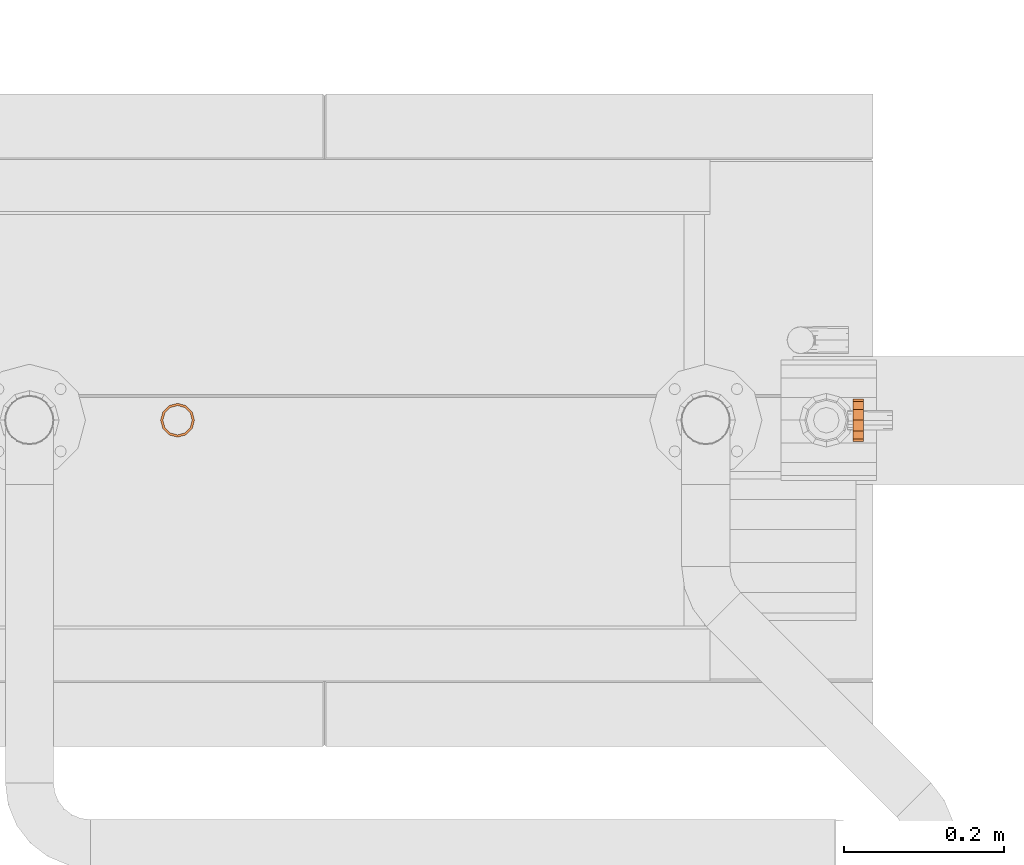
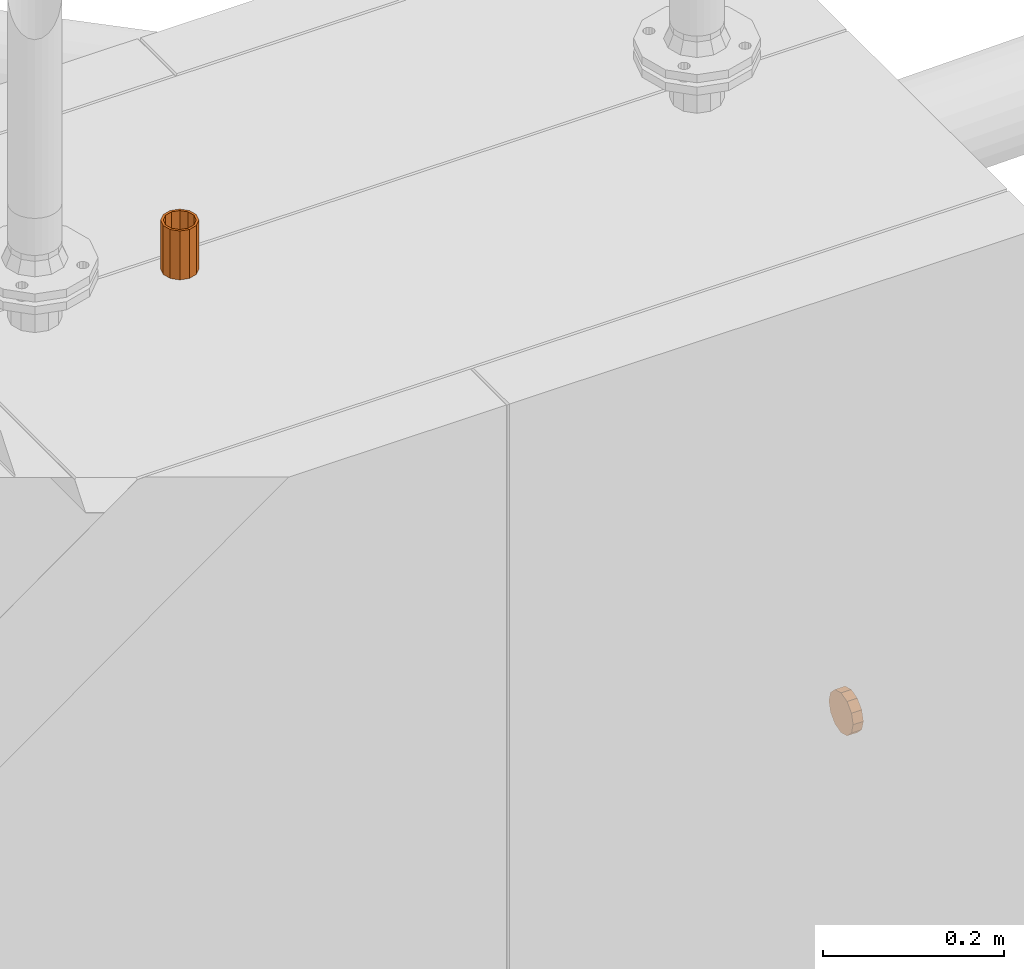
# One storey, part 374 of 374: 2 proxies.
"""IFC2X3 building model written with IfcOpenShell, lengths in metres."""

from ifc_helpers import new_model, si_unit, direction, origin, place, context, subcontext, project, spatial, open_shell, surface_model, source, transform, mapped, element, save


model = new_model("IFC2X3")

# Units and contexts
model_context = context("Model", 3, precision=1e-05, world=origin(), true_north=direction((-0.4480736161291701, 0.8939966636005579)))
body_context = subcontext(model_context, "Body", "Model", "MODEL_VIEW")
ifc_project = project(units=[si_unit("LENGTHUNIT", "METRE"), si_unit("AREAUNIT", "SQUARE_METRE"), si_unit("VOLUMEUNIT", "CUBIC_METRE"), si_unit("PLANEANGLEUNIT", "RADIAN"), si_unit("THERMODYNAMICTEMPERATUREUNIT", "KELVIN"), si_unit("MASSUNIT", "GRAM", prefix="KILO"), si_unit("TIMEUNIT", "SECOND")], contexts=[model_context])

# Site, building, storey
site_placement = place(None, origin())
site = spatial("IfcSite", under=ifc_project, at=site_placement, Name="Site 1", CompositionType="ELEMENT")
building_placement = place(site_placement, origin())
building = spatial("IfcBuilding", under=site, at=building_placement, Name="Undefined", CompositionType="ELEMENT")
storey_placement = place(building_placement, origin())
storey = spatial("IfcBuildingStorey", under=building, at=storey_placement, Name="Rez de chauss\x8ee", CompositionType="ELEMENT", Elevation=0.0)

# Proxies
shared_shape_1 = source(origin(), body_context, "Body", "SurfaceModel", [
    surface_model("IfcFaceBasedSurfaceModel", [(0.025895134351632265, 0.006938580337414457, 0.0), (0.0, 0.0, 0.0), (0.03791310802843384, -4.4408921e-16, 0.0), (-0.006938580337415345, -0.01201797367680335, 0.0), (0.04485168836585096, -0.012017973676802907, 0.0), (-0.006938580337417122, -0.025895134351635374, 0.0), (0.04485168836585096, -0.02589513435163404, 0.0), (1.776356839e-15, -0.03791310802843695, 0.0), (0.037913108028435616, -0.03791310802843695, 0.0), (0.01201797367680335, -0.044851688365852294, 0.0), (0.02589513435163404, -0.04485168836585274, 0.0), (0.012017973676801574, 0.006938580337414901, 0.0), (1.776356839e-15, -0.03791310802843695, -0.013149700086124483), (-0.006938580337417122, -0.025895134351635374, -0.013149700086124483), (-0.006938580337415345, -0.01201797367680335, -0.013149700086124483), (0.0, -8.8817842e-16, -0.013149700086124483), (0.012017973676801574, 0.006938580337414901, -0.013149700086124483), (0.025895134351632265, 0.006938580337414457, -0.013149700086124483), (0.03791310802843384, -4.4408921e-16, -0.013149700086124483), (0.04485168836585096, -0.012017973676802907, -0.013149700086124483), (0.04485168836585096, -0.02589513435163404, -0.013149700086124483), (0.037913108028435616, -0.03791310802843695, -0.013149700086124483), (0.02589513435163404, -0.04485168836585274, -0.013149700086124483), (0.01201797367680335, -0.044851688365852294, -0.013149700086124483)], [open_shell([[[0, 1, 2]], [[2, 1, 3]], [[2, 3, 4]], [[4, 3, 5]], [[4, 5, 6]], [[6, 5, 7]], [[6, 7, 8]], [[8, 7, 9]], [[8, 9, 10]], [[0, 11, 1]], [[12, 5, 13]], [[13, 5, 3]], [[13, 3, 14]], [[14, 3, 1]], [[14, 1, 15]], [[15, 1, 11]], [[15, 11, 16]], [[16, 11, 0]], [[16, 0, 17]], [[17, 0, 2]], [[17, 2, 18]], [[18, 2, 4]], [[18, 4, 19]], [[19, 4, 6]], [[19, 6, 20]], [[20, 6, 8]], [[20, 8, 21]], [[21, 8, 10]], [[21, 10, 22]], [[22, 10, 9]], [[22, 9, 23]], [[23, 9, 7]], [[23, 7, 12]], [[12, 7, 5]], [[13, 14, 12]], [[12, 14, 23]], [[14, 15, 23]], [[23, 15, 22]], [[15, 16, 22]], [[22, 16, 21]], [[16, 17, 21]], [[21, 17, 20]], [[17, 18, 20]], [[20, 18, 19]]])]),
])
proxy_1_placement = place(storey_placement, origin())
element("IfcBuildingElementProxy", 1, at=proxy_1_placement, inside=storey, Name="BuildingElementProxy 25", context=body_context, shape_type="MappedRepresentation", body=[
    mapped(shared_shape_1, transform((54.945787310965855, 13.069616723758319, 0.36321694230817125), x_axis=(0.0, -0.9659258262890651, -0.25881904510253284), y_axis=(0.0, -0.25881904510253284, 0.9659258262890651), z_axis=(-1.0, 0.0, 0.0))),
])
shared_shape_2 = source(origin(), body_context, "Body", "SurfaceModel", [
    surface_model("IfcFaceBasedSurfaceModel", [(0.0015088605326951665, 0.0025465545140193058, 0.0), (0.0, 0.0, 0.0), (0.01060067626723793, 0.0, 0.0), (0.010567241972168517, -0.002959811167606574, 0.0), (0.019747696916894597, 0.002340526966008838, 0.0), (0.02119864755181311, -0.00023946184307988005, 0.0), (0.026498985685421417, 0.008940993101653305, 0.0), (0.029045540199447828, 0.007432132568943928, 0.0), (0.03200535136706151, 0.01799937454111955, 0.0), (-0.00509160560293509, 0.009297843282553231, 0.0), (-0.007671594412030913, 0.007846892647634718, 0.0), (-0.007432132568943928, 0.018444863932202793, 0.0), (-0.010391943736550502, 0.018478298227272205, 0.0), (-0.004885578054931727, 0.027536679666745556, 0.0), (-0.007432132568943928, 0.029045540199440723, 0.0), (0.00041476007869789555, 0.036717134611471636, 0.0), (0.0018657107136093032, 0.03413714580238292, 0.0), (0.011046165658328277, 0.039437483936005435, 0.0), (0.011012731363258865, 0.036477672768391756, 0.0), (0.021613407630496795, 0.03647767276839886, 0.0), (0.02010454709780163, 0.033931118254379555, 0.0), (0.029285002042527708, 0.028630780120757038, 0.0), (0.026705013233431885, 0.027179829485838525, 0.0), (0.029045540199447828, 0.018032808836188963, 0.0), (0.0018657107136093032, 0.03413714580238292, -0.06600000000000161), (-0.004885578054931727, 0.027536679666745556, -0.06600000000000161), (-0.007432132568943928, 0.018444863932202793, -0.06600000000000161), (-0.00509160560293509, 0.009297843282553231, -0.06600000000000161), (0.0015088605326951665, 0.0025465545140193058, -0.06600000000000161), (0.01060067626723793, 0.0, -0.06600000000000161), (0.019747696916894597, 0.002340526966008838, -0.06600000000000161), (0.026498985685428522, 0.0089409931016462, -0.06600000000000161), (0.029045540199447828, 0.018032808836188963, -0.06600000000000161), (0.026705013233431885, 0.027179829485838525, -0.06600000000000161), (0.02010454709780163, 0.033931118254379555, -0.06600000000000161), (0.011012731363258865, 0.036477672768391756, -0.06600000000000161), (-0.010391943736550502, 0.018478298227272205, -0.06600000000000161), (-0.007432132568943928, 0.029045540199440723, -0.06600000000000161), (0.00041476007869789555, 0.036717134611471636, -0.06600000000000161), (0.011046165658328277, 0.039437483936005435, -0.06600000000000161), (0.021613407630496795, 0.03647767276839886, -0.06600000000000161), (0.029285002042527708, 0.028630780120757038, -0.06600000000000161), (0.03200535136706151, 0.01799937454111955, -0.06600000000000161), (0.029045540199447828, 0.007432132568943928, -0.06600000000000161), (0.02119864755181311, -0.00023946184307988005, -0.06600000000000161), (0.010567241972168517, -0.002959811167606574, -0.06600000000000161), (0.0, 0.0, -0.06600000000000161), (-0.007671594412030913, 0.007846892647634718, -0.06600000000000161)], [open_shell([[[0, 1, 2]], [[2, 1, 3]], [[2, 3, 4]], [[4, 3, 5]], [[4, 5, 6]], [[6, 5, 7]], [[6, 7, 8]], [[0, 9, 1]], [[1, 9, 10]], [[9, 11, 10]], [[10, 11, 12]], [[11, 13, 12]], [[12, 13, 14]], [[14, 13, 15]], [[15, 13, 16]], [[15, 16, 17]], [[17, 16, 18]], [[17, 18, 19]], [[19, 18, 20]], [[19, 20, 21]], [[21, 20, 22]], [[21, 22, 23]], [[21, 23, 8]], [[8, 23, 6]], [[24, 13, 25]], [[25, 13, 11]], [[25, 11, 26]], [[26, 11, 9]], [[26, 9, 27]], [[27, 9, 0]], [[27, 0, 28]], [[28, 0, 2]], [[28, 2, 29]], [[29, 2, 4]], [[29, 4, 30]], [[30, 4, 6]], [[30, 6, 31]], [[31, 6, 23]], [[31, 23, 32]], [[32, 23, 22]], [[32, 22, 33]], [[33, 22, 20]], [[33, 20, 34]], [[34, 20, 18]], [[34, 18, 35]], [[35, 18, 16]], [[35, 16, 24]], [[24, 16, 13]], [[36, 14, 37]], [[37, 14, 15]], [[37, 15, 38]], [[38, 15, 17]], [[38, 17, 39]], [[39, 17, 19]], [[39, 19, 40]], [[40, 19, 21]], [[40, 21, 41]], [[41, 21, 8]], [[41, 8, 42]], [[42, 8, 7]], [[42, 7, 43]], [[43, 7, 5]], [[43, 5, 44]], [[44, 5, 3]], [[44, 3, 45]], [[45, 3, 1]], [[45, 1, 46]], [[46, 1, 10]], [[46, 10, 47]], [[47, 10, 12]], [[47, 12, 36]], [[36, 12, 14]], [[29, 45, 28]], [[28, 45, 46]], [[28, 46, 27]], [[27, 46, 47]], [[27, 47, 26]], [[26, 47, 36]], [[26, 36, 25]], [[25, 36, 37]], [[25, 37, 38]], [[29, 30, 45]], [[45, 30, 44]], [[30, 31, 44]], [[44, 31, 43]], [[43, 31, 42]], [[42, 31, 32]], [[42, 32, 41]], [[41, 32, 33]], [[41, 33, 40]], [[40, 33, 34]], [[40, 34, 35]], [[40, 35, 39]], [[39, 35, 24]], [[39, 24, 38]], [[38, 24, 25]]])]),
])
proxy_2_placement = place(storey_placement, origin())
element("IfcBuildingElementProxy", 2, at=proxy_2_placement, inside=storey, Name="BuildingElementProxy 31", context=body_context, shape_type="MappedRepresentation", body=[
    mapped(shared_shape_2, transform((54.102099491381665, 13.035012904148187, 1.2340000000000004), x_axis=(-0.8603224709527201, 0.5097501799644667, 0.0), y_axis=(0.5097501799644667, 0.8603224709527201, 0.0), z_axis=(0.0, 0.0, -1.0))),
])

save(model, "model.ifc")
